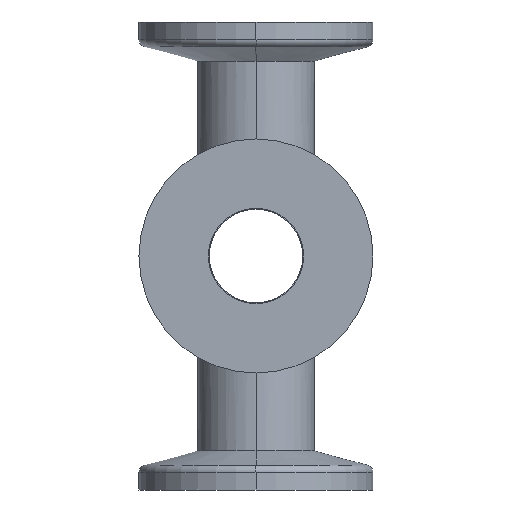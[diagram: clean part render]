
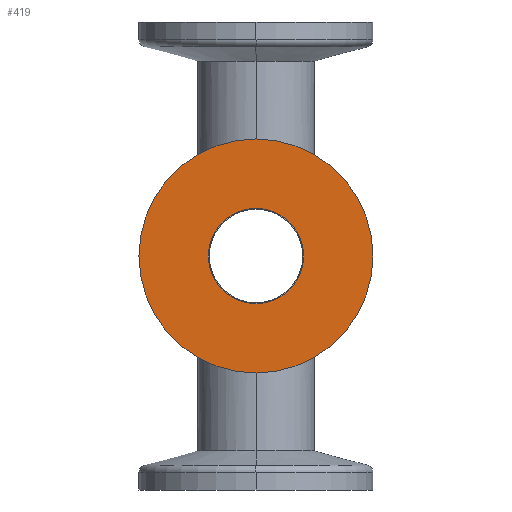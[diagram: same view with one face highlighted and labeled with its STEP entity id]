
A CAD part, left-side view. The second image highlights one B-rep face of the part: STEP entity #419.
In plain terms, the highlighted planar face has unit normal (-1, 0, 0).
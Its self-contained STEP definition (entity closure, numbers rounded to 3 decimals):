
#126 = CARTESIAN_POINT ( 'NONE',  ( -30., 0., -30. ) ) ;
#155 = VERTEX_POINT ( 'NONE', #779 ) ;
#230 = EDGE_CURVE ( 'NONE', #155, #2139, #259, .T. ) ;
#259 = CIRCLE ( 'NONE', #928, 6.1 ) ;
#282 = FACE_OUTER_BOUND ( 'NONE', #1560, .T. ) ;
#312 = CARTESIAN_POINT ( 'NONE',  ( -30., 0., -23.9 ) ) ;
#412 = ORIENTED_EDGE ( 'NONE', *, *, #1215, .T. ) ;
#419 = ADVANCED_FACE ( 'NONE', ( #282, #1693 ), #2497, .T. ) ;
#496 = DIRECTION ( 'NONE',  ( -1., 0., 0. ) ) ;
#535 = ORIENTED_EDGE ( 'NONE', *, *, #230, .F. ) ;
#608 = DIRECTION ( 'NONE',  ( -1., 0., 0. ) ) ;
#618 = EDGE_CURVE ( 'NONE', #2139, #155, #1524, .T. ) ;
#632 = CARTESIAN_POINT ( 'NONE',  ( -30., 0., -30. ) ) ;
#653 = AXIS2_PLACEMENT_3D ( 'NONE', #1382, #2604, #1370 ) ;
#684 = CARTESIAN_POINT ( 'NONE',  ( -30., 15., -30. ) ) ;
#726 = DIRECTION ( 'NONE',  ( 0., 0., 1. ) ) ;
#779 = CARTESIAN_POINT ( 'NONE',  ( -30., 0., -36.1 ) ) ;
#784 = CIRCLE ( 'NONE', #1636, 15. ) ;
#923 = EDGE_LOOP ( 'NONE', ( #1924, #535 ) ) ;
#928 = AXIS2_PLACEMENT_3D ( 'NONE', #632, #608, #1412 ) ;
#1116 = CARTESIAN_POINT ( 'NONE',  ( -30., 0., -15. ) ) ;
#1215 = EDGE_CURVE ( 'NONE', #2146, #1536, #1538, .T. ) ;
#1370 = DIRECTION ( 'NONE',  ( 0., 0., 1. ) ) ;
#1382 = CARTESIAN_POINT ( 'NONE',  ( -30., 0., -30. ) ) ;
#1397 = AXIS2_PLACEMENT_3D ( 'NONE', #1409, #1993, #1611 ) ;
#1409 = CARTESIAN_POINT ( 'NONE',  ( -30., 0., -30. ) ) ;
#1412 = DIRECTION ( 'NONE',  ( 0., 0., 1. ) ) ;
#1493 = DIRECTION ( 'NONE',  ( -1., 0., 0. ) ) ;
#1524 = CIRCLE ( 'NONE', #1397, 6.1 ) ;
#1536 = VERTEX_POINT ( 'NONE', #2205 ) ;
#1538 = CIRCLE ( 'NONE', #653, 15. ) ;
#1560 = EDGE_LOOP ( 'NONE', ( #412, #2203 ) ) ;
#1611 = DIRECTION ( 'NONE',  ( 0., 0., 1. ) ) ;
#1636 = AXIS2_PLACEMENT_3D ( 'NONE', #126, #496, #726 ) ;
#1693 = FACE_BOUND ( 'NONE', #923, .T. ) ;
#1924 = ORIENTED_EDGE ( 'NONE', *, *, #618, .F. ) ;
#1993 = DIRECTION ( 'NONE',  ( -1., 0., 0. ) ) ;
#2139 = VERTEX_POINT ( 'NONE', #312 ) ;
#2145 = AXIS2_PLACEMENT_3D ( 'NONE', #684, #1493, #2287 ) ;
#2146 = VERTEX_POINT ( 'NONE', #1116 ) ;
#2203 = ORIENTED_EDGE ( 'NONE', *, *, #2472, .T. ) ;
#2205 = CARTESIAN_POINT ( 'NONE',  ( -30., 0., -45. ) ) ;
#2287 = DIRECTION ( 'NONE',  ( 0., 0., 1. ) ) ;
#2472 = EDGE_CURVE ( 'NONE', #1536, #2146, #784, .T. ) ;
#2497 = PLANE ( 'NONE',  #2145 ) ;
#2604 = DIRECTION ( 'NONE',  ( -1., 0., 0. ) ) ;
